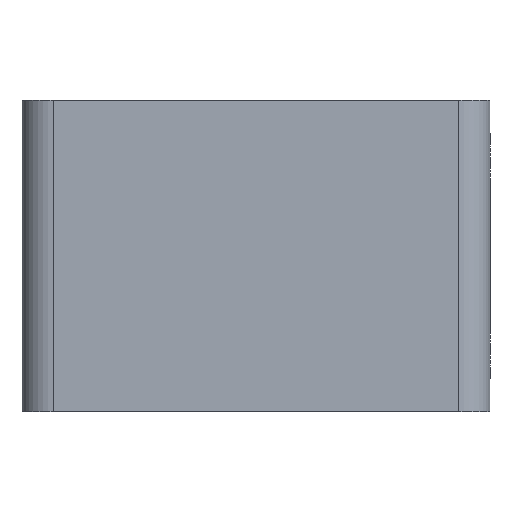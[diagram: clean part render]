
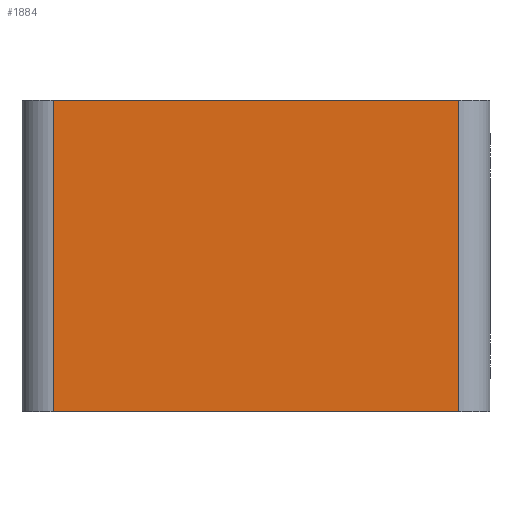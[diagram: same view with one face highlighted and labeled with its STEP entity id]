
A CAD part, left-side view. The second image highlights one B-rep face of the part: STEP entity #1884.
In plain terms, the highlighted planar face has unit normal (-1, 0, 0).
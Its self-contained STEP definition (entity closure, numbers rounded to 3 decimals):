
#24 = DIRECTION ( 'NONE',  ( 0., 1., 0. ) ) ;
#204 = CARTESIAN_POINT ( 'NONE',  ( -85., 0., 50. ) ) ;
#262 = CARTESIAN_POINT ( 'NONE',  ( -85., 70., 0. ) ) ;
#437 = VERTEX_POINT ( 'NONE', #1242 ) ;
#464 = VECTOR ( 'NONE', #920, 1000. ) ;
#468 = AXIS2_PLACEMENT_3D ( 'NONE', #828, #1886, #980 ) ;
#479 = VERTEX_POINT ( 'NONE', #262 ) ;
#550 = LINE ( 'NONE', #204, #1703 ) ;
#583 = DIRECTION ( 'NONE',  ( 0., 0., -1. ) ) ;
#636 = ORIENTED_EDGE ( 'NONE', *, *, #1779, .T. ) ;
#644 = EDGE_CURVE ( 'NONE', #791, #904, #1625, .T. ) ;
#676 = EDGE_CURVE ( 'NONE', #904, #479, #1575, .T. ) ;
#791 = VERTEX_POINT ( 'NONE', #1928 ) ;
#828 = CARTESIAN_POINT ( 'NONE',  ( -85., 0., 50. ) ) ;
#857 = PLANE ( 'NONE',  #468 ) ;
#875 = CARTESIAN_POINT ( 'NONE',  ( -85., 5., 0. ) ) ;
#891 = VECTOR ( 'NONE', #583, 1000. ) ;
#904 = VERTEX_POINT ( 'NONE', #875 ) ;
#920 = DIRECTION ( 'NONE',  ( 0., 0., -1. ) ) ;
#980 = DIRECTION ( 'NONE',  ( 0., 0., 1. ) ) ;
#1065 = FACE_OUTER_BOUND ( 'NONE', #1710, .T. ) ;
#1069 = CARTESIAN_POINT ( 'NONE',  ( -85., 0., 0. ) ) ;
#1242 = CARTESIAN_POINT ( 'NONE',  ( -85., 70., 50. ) ) ;
#1257 = EDGE_CURVE ( 'NONE', #437, #479, #1301, .T. ) ;
#1301 = LINE ( 'NONE', #1494, #891 ) ;
#1419 = DIRECTION ( 'NONE',  ( 0., 1., 0. ) ) ;
#1449 = ORIENTED_EDGE ( 'NONE', *, *, #1257, .T. ) ;
#1494 = CARTESIAN_POINT ( 'NONE',  ( -85., 70., 50. ) ) ;
#1553 = ORIENTED_EDGE ( 'NONE', *, *, #644, .F. ) ;
#1575 = LINE ( 'NONE', #1069, #1927 ) ;
#1625 = LINE ( 'NONE', #1836, #464 ) ;
#1703 = VECTOR ( 'NONE', #1419, 1000. ) ;
#1710 = EDGE_LOOP ( 'NONE', ( #1866, #1553, #636, #1449 ) ) ;
#1779 = EDGE_CURVE ( 'NONE', #791, #437, #550, .T. ) ;
#1836 = CARTESIAN_POINT ( 'NONE',  ( -85., 5., 50. ) ) ;
#1866 = ORIENTED_EDGE ( 'NONE', *, *, #676, .F. ) ;
#1884 = ADVANCED_FACE ( 'NONE', ( #1065 ), #857, .T. ) ;
#1886 = DIRECTION ( 'NONE',  ( -1., 0., 0. ) ) ;
#1927 = VECTOR ( 'NONE', #24, 1000. ) ;
#1928 = CARTESIAN_POINT ( 'NONE',  ( -85., 5., 50. ) ) ;
